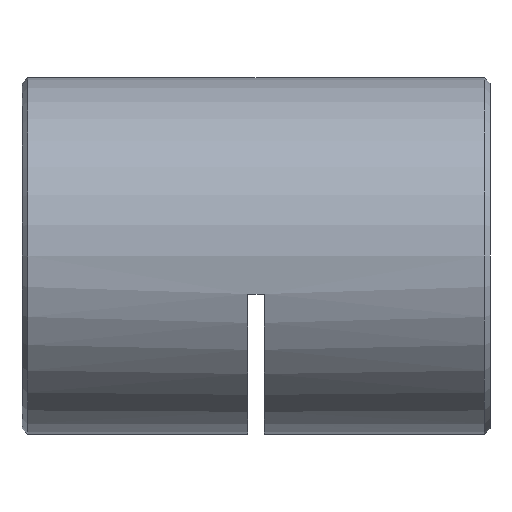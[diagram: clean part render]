
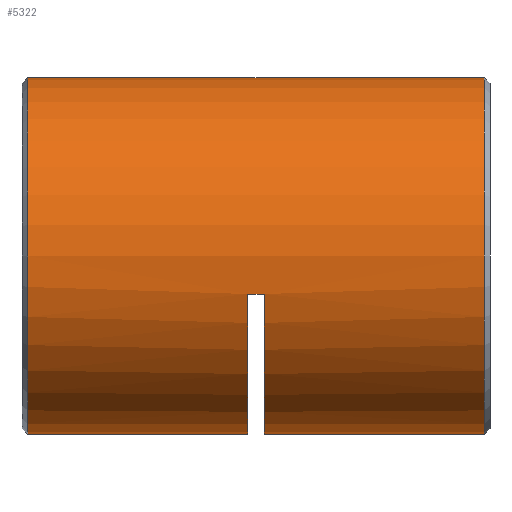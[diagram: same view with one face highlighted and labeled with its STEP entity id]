
A CAD part, left-side view. The second image highlights one B-rep face of the part: STEP entity #5322.
In plain terms, the highlighted cylindrical face has radius 16 mm (diameter 32 mm), a partial arc.
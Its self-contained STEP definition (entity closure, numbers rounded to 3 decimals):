
#21 = CYLINDRICAL_SURFACE ( 'NONE', #5355, 16. ) ;
#62 = CARTESIAN_POINT ( 'NONE',  ( 0., 0.75, -16. ) ) ;
#170 = CIRCLE ( 'NONE', #4263, 16. ) ;
#214 = ORIENTED_EDGE ( 'NONE', *, *, #1034, .F. ) ;
#295 = CARTESIAN_POINT ( 'NONE',  ( 0., 20.5, -16. ) ) ;
#345 = VERTEX_POINT ( 'NONE', #4178 ) ;
#358 = CARTESIAN_POINT ( 'NONE',  ( 0., 22., -16. ) ) ;
#423 = ORIENTED_EDGE ( 'NONE', *, *, #5957, .T. ) ;
#562 = CARTESIAN_POINT ( 'NONE',  ( 0., 20.5, 0. ) ) ;
#588 = DIRECTION ( 'NONE',  ( 0., 0., -1. ) ) ;
#595 = CIRCLE ( 'NONE', #4649, 16. ) ;
#627 = CARTESIAN_POINT ( 'NONE',  ( 0., 0.75, 16. ) ) ;
#731 = DIRECTION ( 'NONE',  ( 0., 0., 1. ) ) ;
#748 = CARTESIAN_POINT ( 'NONE',  ( -15.632, 21.25, -3.413 ) ) ;
#885 = EDGE_CURVE ( 'NONE', #345, #1753, #595, .T. ) ;
#1034 = EDGE_CURVE ( 'NONE', #5093, #4264, #1107, .T. ) ;
#1045 = EDGE_LOOP ( 'NONE', ( #214, #4724, #1688, #2759, #3425, #423, #4987, #5121 ) ) ;
#1107 = LINE ( 'NONE', #6214, #5561 ) ;
#1183 = CARTESIAN_POINT ( 'NONE',  ( -15.632, 20.5, -3.413 ) ) ;
#1247 = DIRECTION ( 'NONE',  ( 0., -1., 0. ) ) ;
#1325 = CARTESIAN_POINT ( 'NONE',  ( 0., 22., 0. ) ) ;
#1407 = CIRCLE ( 'NONE', #2583, 16. ) ;
#1424 = LINE ( 'NONE', #748, #5594 ) ;
#1559 = AXIS2_PLACEMENT_3D ( 'NONE', #3195, #1651, #731 ) ;
#1651 = DIRECTION ( 'NONE',  ( 0., 1., 0. ) ) ;
#1688 = ORIENTED_EDGE ( 'NONE', *, *, #5650, .T. ) ;
#1753 = VERTEX_POINT ( 'NONE', #358 ) ;
#2022 = DIRECTION ( 'NONE',  ( 0., -1., 0. ) ) ;
#2029 = VECTOR ( 'NONE', #2789, 1000. ) ;
#2037 = FACE_OUTER_BOUND ( 'NONE', #1045, .T. ) ;
#2108 = LINE ( 'NONE', #2926, #4438 ) ;
#2166 = EDGE_CURVE ( 'NONE', #2647, #4264, #6073, .T. ) ;
#2330 = DIRECTION ( 'NONE',  ( 0., 0., -1. ) ) ;
#2583 = AXIS2_PLACEMENT_3D ( 'NONE', #3253, #3232, #4179 ) ;
#2647 = VERTEX_POINT ( 'NONE', #62 ) ;
#2759 = ORIENTED_EDGE ( 'NONE', *, *, #885, .F. ) ;
#2789 = DIRECTION ( 'NONE',  ( 0., -1., 0. ) ) ;
#2926 = CARTESIAN_POINT ( 'NONE',  ( 0., 42.5, -16. ) ) ;
#2932 = VERTEX_POINT ( 'NONE', #1183 ) ;
#3195 = CARTESIAN_POINT ( 'NONE',  ( 0., 0.75, 0. ) ) ;
#3232 = DIRECTION ( 'NONE',  ( 0., -1., 0. ) ) ;
#3253 = CARTESIAN_POINT ( 'NONE',  ( 0., 41.75, 0. ) ) ;
#3315 = DIRECTION ( 'NONE',  ( 0., -1., 0. ) ) ;
#3425 = ORIENTED_EDGE ( 'NONE', *, *, #5236, .T. ) ;
#3469 = LINE ( 'NONE', #3717, #2029 ) ;
#3717 = CARTESIAN_POINT ( 'NONE',  ( 0., 42.5, -16. ) ) ;
#3881 = DIRECTION ( 'NONE',  ( 0., -1., 0. ) ) ;
#3910 = VERTEX_POINT ( 'NONE', #295 ) ;
#4178 = CARTESIAN_POINT ( 'NONE',  ( -15.632, 22., -3.413 ) ) ;
#4179 = DIRECTION ( 'NONE',  ( 0., 0., -1. ) ) ;
#4193 = DIRECTION ( 'NONE',  ( 0., -1., 0. ) ) ;
#4263 = AXIS2_PLACEMENT_3D ( 'NONE', #562, #2022, #588 ) ;
#4264 = VERTEX_POINT ( 'NONE', #627 ) ;
#4438 = VECTOR ( 'NONE', #3881, 1000. ) ;
#4639 = DIRECTION ( 'NONE',  ( 0., -1., 0. ) ) ;
#4649 = AXIS2_PLACEMENT_3D ( 'NONE', #1325, #4639, #5661 ) ;
#4724 = ORIENTED_EDGE ( 'NONE', *, *, #5762, .T. ) ;
#4987 = ORIENTED_EDGE ( 'NONE', *, *, #5451, .T. ) ;
#5093 = VERTEX_POINT ( 'NONE', #6006 ) ;
#5121 = ORIENTED_EDGE ( 'NONE', *, *, #2166, .T. ) ;
#5198 = CARTESIAN_POINT ( 'NONE',  ( 0., 42.5, 0. ) ) ;
#5236 = EDGE_CURVE ( 'NONE', #345, #2932, #1424, .T. ) ;
#5322 = ADVANCED_FACE ( 'NONE', ( #2037 ), #21, .T. ) ;
#5355 = AXIS2_PLACEMENT_3D ( 'NONE', #5198, #4193, #2330 ) ;
#5451 = EDGE_CURVE ( 'NONE', #3910, #2647, #2108, .T. ) ;
#5561 = VECTOR ( 'NONE', #3315, 1000. ) ;
#5594 = VECTOR ( 'NONE', #1247, 1000. ) ;
#5650 = EDGE_CURVE ( 'NONE', #5745, #1753, #3469, .T. ) ;
#5661 = DIRECTION ( 'NONE',  ( 0., 0., -1. ) ) ;
#5678 = CARTESIAN_POINT ( 'NONE',  ( 0., 41.75, -16. ) ) ;
#5745 = VERTEX_POINT ( 'NONE', #5678 ) ;
#5762 = EDGE_CURVE ( 'NONE', #5093, #5745, #1407, .T. ) ;
#5957 = EDGE_CURVE ( 'NONE', #2932, #3910, #170, .T. ) ;
#6006 = CARTESIAN_POINT ( 'NONE',  ( 0., 41.75, 16. ) ) ;
#6073 = CIRCLE ( 'NONE', #1559, 16. ) ;
#6214 = CARTESIAN_POINT ( 'NONE',  ( 0., 42.5, 16. ) ) ;
